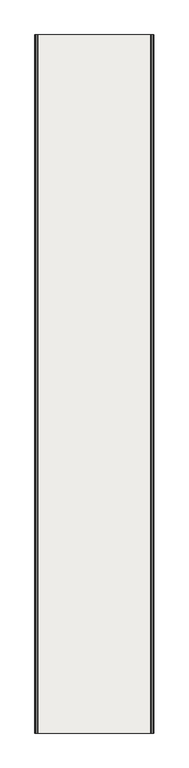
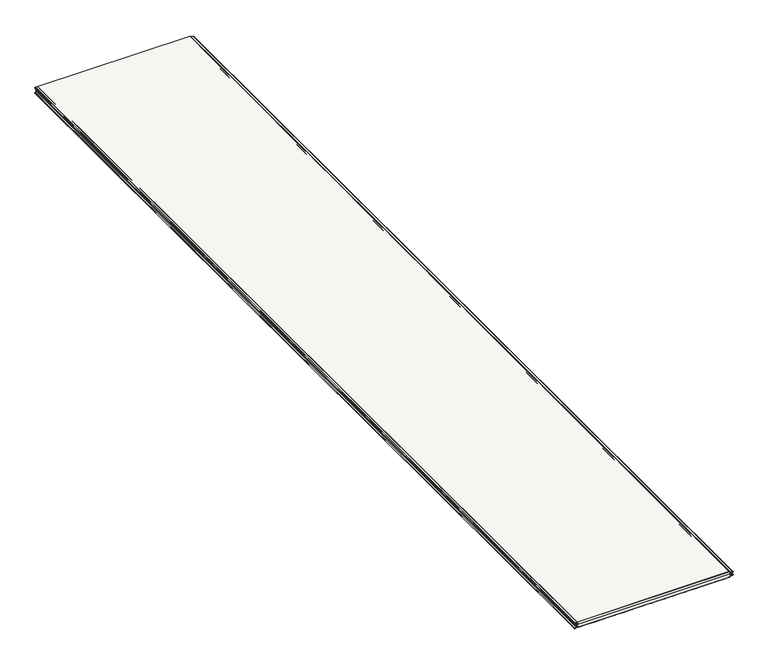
"""IFC4 building model written with IfcOpenShell, lengths in millimetres: covering geometry, Wall sandwich panel SPW-S CORE PIR (single sheet) : -."""

from ifc_helpers import new_model, si_unit, point, frame, frame_2d, origin, place, context, project, spatial, polyline, circle_curve, trimmed, segment, composite_curve, outline, extrude, source, transform, mapped, element, save
from ifc_brep_helpers import plane_surface, cylinder_surface, revolved_surface, advanced_brep


def covering_55037079(model_context):
    return source(origin(), model_context, "Body", "SolidModel", [
        extrude(outline(composite_curve([segment(trimmed(circle_curve(frame_2d((-37.0000044, -1037.1173525)), 1.9999956), [point((-39.0, -1037.1173525))], [point((-35.0012272, -1037.1871548))], True, "CARTESIAN"), True, "CONTINUOUS"), segment(polyline([(-35.0012272, -1037.1871548), (-34.4480424, -1021.3468073)]), True, "CONTINUOUS"), segment(trimmed(circle_curve(frame_2d((-29.950784, -1021.5038629)), 4.5), [point((-34.4480424, -1021.3468073))], [point((-25.4569506, -1021.2683589))], False, "CARTESIAN"), True, "CONTINUOUS"), segment(polyline([(-25.4569506, -1021.2683589), (-24.890434, -1032.0785016)]), True, "CONTINUOUS"), segment(trimmed(circle_curve(frame_2d((-23.3924895, -1032.0000003)), 1.5), [point((-24.890434, -1032.0785016))], [point((-23.3924895, -1033.5000003))], True, "CARTESIAN"), True, "CONTINUOUS"), segment(polyline([(-23.3924895, -1033.5000003), (-20.8924895, -1033.5000003), (-20.8924895, -1034.5000003), (-23.3924895, -1034.5000003)]), True, "CONTINUOUS"), segment(trimmed(circle_curve(frame_2d((-23.3924895, -1032.0000003)), 2.5), [point((-23.3924895, -1034.5000003))], [point((-25.8890636, -1032.1308358))], False, "CARTESIAN"), True, "CONTINUOUS"), segment(polyline([(-25.8890636, -1032.1308358), (-26.4555803, -1021.3206931)]), True, "CONTINUOUS"), segment(trimmed(circle_curve(frame_2d((-29.950784, -1021.5038629)), 3.5), [point((-26.4555803, -1021.3206931))], [point((-33.4486516, -1021.3817085))], True, "CARTESIAN"), True, "CONTINUOUS"), segment(polyline([(-33.4486516, -1021.3817085), (-34.0018364, -1037.222056)]), True, "CONTINUOUS"), segment(trimmed(circle_curve(frame_2d((-37.0000044, -1037.1173525)), 2.9999956), [point((-34.0018364, -1037.222056))], [point((-40.0, -1037.1173525))], False, "CARTESIAN"), True, "CONTINUOUS"), segment(polyline([(-40.0, -1037.1173525), (-40.0, -1035.0000003), (-39.0, -1035.0000003), (-39.0, -1037.1173525)]), True, "CONTINUOUS")], self_intersect=False)), frame((0.0, -6000.0, 0.0), z_axis=(0.0, 1.0, 0.0), x_axis=(0.0, 0.0, 1.0)), (0.0, 0.0, 1.0), 6000.0),
        extrude(outline(composite_curve([segment(polyline([(-1.0, -1037.1173525), (-1.0, -1035.0000003), (0.0, -1035.0000003), (0.0, -1037.1173525)]), True, "CONTINUOUS"), segment(trimmed(circle_curve(frame_2d((-2.9999956, -1037.1173525)), 2.9999956), [point((0.0, -1037.1173525))], [point((-5.9981636, -1037.222056))], False, "CARTESIAN"), True, "CONTINUOUS"), segment(polyline([(-5.9981636, -1037.222056), (-6.5513484, -1021.3817085)]), True, "CONTINUOUS"), segment(trimmed(circle_curve(frame_2d((-10.049216, -1021.5038629)), 3.5), [point((-6.5513484, -1021.3817085))], [point((-13.5444197, -1021.3206931))], True, "CARTESIAN"), True, "CONTINUOUS"), segment(polyline([(-13.5444197, -1021.3206931), (-14.1109364, -1032.1308358)]), True, "CONTINUOUS"), segment(trimmed(circle_curve(frame_2d((-16.6075105, -1032.0000003)), 2.5), [point((-14.1109364, -1032.1308358))], [point((-16.6075105, -1034.5000003))], False, "CARTESIAN"), True, "CONTINUOUS"), segment(polyline([(-16.6075105, -1034.5000003), (-19.1075105, -1034.5000003), (-19.1075105, -1033.5000003), (-16.6075105, -1033.5000003)]), True, "CONTINUOUS"), segment(trimmed(circle_curve(frame_2d((-16.6075105, -1032.0000003)), 1.5), [point((-16.6075105, -1033.5000003))], [point((-15.109566, -1032.0785016))], True, "CARTESIAN"), True, "CONTINUOUS"), segment(polyline([(-15.109566, -1032.0785016), (-14.5430494, -1021.2683589)]), True, "CONTINUOUS"), segment(trimmed(circle_curve(frame_2d((-10.049216, -1021.5038629)), 4.5), [point((-14.5430494, -1021.2683589))], [point((-5.5519576, -1021.3468073))], False, "CARTESIAN"), True, "CONTINUOUS"), segment(polyline([(-5.5519576, -1021.3468073), (-4.9987728, -1037.1871548)]), True, "CONTINUOUS"), segment(trimmed(circle_curve(frame_2d((-2.9999956, -1037.1173525)), 1.9999956), [point((-4.9987728, -1037.1871548))], [point((-1.0, -1037.1173525))], True, "CARTESIAN"), True, "CONTINUOUS")], self_intersect=False)), frame((0.0, -6000.0, 0.0), z_axis=(0.0, 1.0, 0.0), x_axis=(0.0, 0.0, 1.0)), (0.0, 0.0, 1.0), 6000.0),
        advanced_brep(
        [(-43.1186621, 0.0, -39.0), (-41.1186621, 0.0, -37.0), (-41.1186621, 0.0, -34.93), (-39.1884611, 0.0, -32.9312183), (-22.5992017, 0.0, -32.3519086), (-22.43132, 0.0, -27.5379716), (-33.6570079, 0.0, -26.9496582), (-36.5, 0.0, -23.9537696), (-36.5, 0.0, -21.4537696), (-35.5, 0.0, -21.4537696), (-35.5, 0.0, -23.9537696), (-33.6046719, 0.0, -25.9510287), (-22.6550677, 0.0, -26.5248731), (-22.6835162, 0.0, -33.3501612), (-39.1535616, 0.0, -33.9306092), (-40.1186621, 0.0, -34.93), (-40.1186621, 0.0, -37.0), (-43.1186621, 0.0, -40.0), (-90.0275239, 0.0, -40.0), (-91.4098003, 0.0, -39.6), (-135.6275239, 0.0, -39.6), (-137.0098003, 0.0, -40.0), (-181.2275239, 0.0, -40.0), (-182.6098003, 0.0, -39.6), (-226.8275239, 0.0, -39.6), (-228.2098003, 0.0, -40.0), (-272.4275239, 0.0, -40.0), (-273.8098003, 0.0, -39.6), (-318.0275239, 0.0, -39.6), (-319.4098003, 0.0, -40.0), (-363.6275239, 0.0, -40.0), (-365.0098003, 0.0, -39.6), (-409.2275239, 0.0, -39.6), (-410.6098003, 0.0, -40.0), (-454.8275239, 0.0, -40.0), (-456.2098003, 0.0, -39.6), (-500.4275239, 0.0, -39.6), (-501.8098003, 0.0, -40.0), (-546.0275239, 0.0, -40.0), (-547.4098003, 0.0, -39.6), (-591.6275239, 0.0, -39.6), (-593.0098003, 0.0, -40.0), (-637.2275239, 0.0, -40.0), (-638.6098003, 0.0, -39.6), (-682.8275239, 0.0, -39.6), (-684.2098003, 0.0, -40.0), (-728.4275239, 0.0, -40.0), (-729.8098003, 0.0, -39.6), (-774.0275239, 0.0, -39.6), (-775.4098003, 0.0, -40.0), (-819.6275239, 0.0, -40.0), (-821.0098003, 0.0, -39.6), (-865.2275239, 0.0, -39.6), (-866.6098003, 0.0, -40.0), (-910.8275239, 0.0, -40.0), (-912.2098003, 0.0, -39.6), (-956.4275239, 0.0, -39.6), (-957.8098003, 0.0, -40.0), (-1002.0275239, 0.0, -40.0), (-1003.4098003, 0.0, -39.6), (-1035.0000003, 0.0, -39.6), (-1035.0000003, 0.0, -39.0), (-1003.4098003, -6000.0, -39.6), (-1002.0275239, -6000.0, -40.0), (-957.8098003, -6000.0, -40.0), (-956.4275239, -6000.0, -39.6), (-912.2098003, -6000.0, -39.6), (-910.8275239, -6000.0, -40.0), (-866.6098003, -6000.0, -40.0), (-865.2275239, -6000.0, -39.6), (-821.0098003, -6000.0, -39.6), (-819.6275239, -6000.0, -40.0), (-775.4098003, -6000.0, -40.0), (-774.0275239, -6000.0, -39.6), (-729.8098003, -6000.0, -39.6), (-728.4275239, -6000.0, -40.0), (-684.2098003, -6000.0, -40.0), (-682.8275239, -6000.0, -39.6), (-638.6098003, -6000.0, -39.6), (-637.2275239, -6000.0, -40.0), (-593.0098003, -6000.0, -40.0), (-591.6275239, -6000.0, -39.6), (-547.4098003, -6000.0, -39.6), (-546.0275239, -6000.0, -40.0), (-501.8098003, -6000.0, -40.0), (-500.4275239, -6000.0, -39.6), (-456.2098003, -6000.0, -39.6), (-454.8275239, -6000.0, -40.0), (-410.6098003, -6000.0, -40.0), (-409.2275239, -6000.0, -39.6), (-365.0098003, -6000.0, -39.6), (-363.6275239, -6000.0, -40.0), (-319.4098003, -6000.0, -40.0), (-318.0275239, -6000.0, -39.6), (-273.8098003, -6000.0, -39.6), (-272.4275239, -6000.0, -40.0), (-228.2098003, -6000.0, -40.0), (-226.8275239, -6000.0, -39.6), (-182.6098003, -6000.0, -39.6), (-181.2275239, -6000.0, -40.0), (-137.0098003, -6000.0, -40.0), (-135.6275239, -6000.0, -39.6), (-91.4098003, -6000.0, -39.6), (-90.0275239, -6000.0, -40.0), (-43.1186621, -6000.0, -40.0), (-40.1186621, -6000.0, -37.0), (-40.1186621, -6000.0, -34.93), (-39.1535616, -6000.0, -33.9306092), (-22.7218558, -6000.0, -33.3568014), (-22.6550677, -6000.0, -26.5248731), (-33.6046719, -6000.0, -25.9510287), (-35.5, -6000.0, -23.9537696), (-35.5, -6000.0, -21.4537696), (-36.5, -6000.0, -21.4537696), (-36.5, -6000.0, -23.9537696), (-33.6570079, -6000.0, -26.9496582), (-22.43132, -6000.0, -27.5379716), (-22.5993141, -6000.0, -32.3486915), (-39.1884611, -6000.0, -32.9312183), (-41.1186621, -6000.0, -34.93), (-41.1186621, -6000.0, -37.0), (-43.1186621, -6000.0, -39.0), (-1035.0000003, -6000.0, -39.0), (-1035.0000003, -6000.0, -39.6)],
        [
            (0, 1, circle_curve(frame((-43.1186621, 0.0, -37.0), z_axis=(0.0, -1.0, 0.0), x_axis=(1.0, 0.0, 0.0)), 2.0)),
            (1, 2),
            (2, 3, circle_curve(frame((-39.1186621, 0.0, -34.93), z_axis=(0.0, 1.0, 0.0), x_axis=(1.0, 0.0, 0.0)), 2.0)),
            (3, 4),
            (4, 5, circle_curve(frame((-22.6835162, 0.0, -29.9374579), z_axis=(0.0, -1.0, 0.0), x_axis=(1.0, 0.0, 0.0)), 2.4127033)),
            (5, 6),
            (6, 7, circle_curve(frame((-33.5, 0.0, -23.9537696), z_axis=(0.0, 1.0, 0.0), x_axis=(1.0, 0.0, 0.0)), 3.0)),
            (7, 8),
            (8, 9),
            (9, 10),
            (10, 11, circle_curve(frame((-33.5, 0.0, -23.9537696), z_axis=(0.0, -1.0, 0.0), x_axis=(1.0, 0.0, 0.0)), 2.0)),
            (11, 12),
            (12, 13, circle_curve(frame((-22.6835162, 0.0, -29.9374579), z_axis=(0.0, 1.0, 0.0), x_axis=(1.0, 0.0, 0.0)), 3.4127033)),
            (13, 14),
            (14, 15, circle_curve(frame((-39.1186621, 0.0, -34.93), z_axis=(0.0, -1.0, 0.0), x_axis=(1.0, 0.0, 0.0)), 1.0)),
            (15, 16),
            (16, 17, circle_curve(frame((-43.1186621, 0.0, -37.0), z_axis=(0.0, 1.0, 0.0), x_axis=(1.0, 0.0, 0.0)), 3.0)),
            (17, 18),
            (18, 19),
            (19, 20),
            (20, 21),
            (21, 22),
            (22, 23),
            (23, 24),
            (24, 25),
            (25, 26),
            (26, 27),
            (27, 28),
            (28, 29),
            (29, 30),
            (30, 31),
            (31, 32),
            (32, 33),
            (33, 34),
            (34, 35),
            (35, 36),
            (36, 37),
            (37, 38),
            (38, 39),
            (39, 40),
            (40, 41),
            (41, 42),
            (42, 43),
            (43, 44),
            (44, 45),
            (45, 46),
            (46, 47),
            (47, 48),
            (48, 49),
            (49, 50),
            (50, 51),
            (51, 52),
            (52, 53),
            (53, 54),
            (54, 55),
            (55, 56),
            (56, 57),
            (57, 58),
            (58, 59),
            (59, 60),
            (60, 61),
            (61, 0),
            (62, 63),
            (63, 64),
            (64, 65),
            (65, 66),
            (66, 67),
            (67, 68),
            (68, 69),
            (69, 70),
            (70, 71),
            (71, 72),
            (72, 73),
            (73, 74),
            (74, 75),
            (75, 76),
            (76, 77),
            (77, 78),
            (78, 79),
            (79, 80),
            (80, 81),
            (81, 82),
            (82, 83),
            (83, 84),
            (84, 85),
            (85, 86),
            (86, 87),
            (87, 88),
            (88, 89),
            (89, 90),
            (90, 91),
            (91, 92),
            (92, 93),
            (93, 94),
            (94, 95),
            (95, 96),
            (96, 97),
            (97, 98),
            (98, 99),
            (99, 100),
            (100, 101),
            (101, 102),
            (102, 103),
            (103, 104),
            (104, 105, circle_curve(frame((-43.1186621, -6000.0, -37.0), z_axis=(0.0, -1.0, 0.0), x_axis=(1.0, 0.0, 0.0)), 3.0)),
            (105, 106),
            (106, 107, circle_curve(frame((-39.1186621, -6000.0, -34.93), z_axis=(0.0, 1.0, 0.0), x_axis=(1.0, 0.0, 0.0)), 1.0)),
            (107, 108),
            (108, 109, circle_curve(frame((-22.6835162, -6000.0, -29.9374579), z_axis=(0.0, -1.0, 0.0), x_axis=(1.0, 0.0, 0.0)), 3.4127033)),
            (109, 110),
            (110, 111, circle_curve(frame((-33.5, -6000.0, -23.9537696), z_axis=(0.0, 1.0, 0.0), x_axis=(1.0, 0.0, 0.0)), 2.0)),
            (111, 112),
            (112, 113),
            (113, 114),
            (114, 115, circle_curve(frame((-33.5, -6000.0, -23.9537696), z_axis=(0.0, -1.0, 0.0), x_axis=(1.0, 0.0, 0.0)), 3.0)),
            (115, 116),
            (116, 117, circle_curve(frame((-22.6835162, -6000.0, -29.9374579), z_axis=(0.0, 1.0, 0.0), x_axis=(1.0, 0.0, 0.0)), 2.4127033)),
            (117, 118),
            (118, 119, circle_curve(frame((-39.1186621, -6000.0, -34.93), z_axis=(0.0, -1.0, 0.0), x_axis=(1.0, 0.0, 0.0)), 2.0)),
            (119, 120),
            (120, 121, circle_curve(frame((-43.1186621, -6000.0, -37.0), z_axis=(0.0, 1.0, 0.0), x_axis=(1.0, 0.0, 0.0)), 2.0)),
            (121, 122),
            (122, 123),
            (123, 62),
            (121, 0),
            (61, 122),
            (2, 119),
            (118, 3),
            (1, 120),
            (117, 4),
            (5, 116),
            (115, 6),
            (114, 7),
            (113, 8),
            (112, 9),
            (16, 105),
            (104, 17),
            (15, 106),
            (14, 107),
            (13, 108),
            (11, 110),
            (109, 12),
            (10, 111),
            (103, 18),
            (102, 19),
            (101, 20),
            (100, 21),
            (99, 22),
            (98, 23),
            (97, 24),
            (96, 25),
            (95, 26),
            (94, 27),
            (93, 28),
            (92, 29),
            (91, 30),
            (90, 31),
            (89, 32),
            (88, 33),
            (87, 34),
            (86, 35),
            (85, 36),
            (84, 37),
            (83, 38),
            (82, 39),
            (81, 40),
            (80, 41),
            (79, 42),
            (78, 43),
            (77, 44),
            (76, 45),
            (75, 46),
            (74, 47),
            (73, 48),
            (55, 66),
            (65, 56),
            (64, 57),
            (63, 58),
            (62, 59),
            (123, 60),
            (72, 49),
            (71, 50),
            (70, 51),
            (69, 52),
            (68, 53),
            (67, 54),
        ],
        [
            plane_surface(frame((-35.0, 0.0, -40.0), z_axis=(0.0, 1.0, 0.0), x_axis=(1.0, 0.0, 0.0))),
            plane_surface(frame((-35.0, -6000.0, -40.0), z_axis=(0.0, -1.0, 0.0), x_axis=(1.0, 0.0, 0.0))),
            plane_surface(frame((-1185.0, 0.0, -39.0), z_axis=(0.0, 0.0, 1.0), x_axis=(0.0, -1.0, 0.0))),
            cylinder_surface(frame((-39.1186621, 0.0, -34.93), z_axis=(0.0, 1.0, 0.0), x_axis=(1.0, 0.0, 0.0)), 2.0),
            plane_surface(frame((-41.1186621, 0.0, -37.0), z_axis=(-1.0, 0.0, 0.0), x_axis=(0.0, -1.0, 0.0))),
            revolved_surface(polyline([(-41.1186621, -6000.0, -37.0), (-41.1186621, 0.0, -37.0)]), (-43.1186621, 0.0, -37.0), (0.0, -1.0, 0.0)),
            plane_surface(frame((-39.1884611, 0.0, -32.9312183), z_axis=(-0.03489949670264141, 0.0, 0.9993908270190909), x_axis=(0.0, -1.0, 0.0))),
            plane_surface(frame((-22.43132, 0.0, -27.5379716), z_axis=(-0.052335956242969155, 0.0, -0.9986295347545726), x_axis=(0.0, -1.0, 0.0))),
            cylinder_surface(frame((-33.5, 0.0, -23.9537696), z_axis=(0.0, 1.0, 0.0), x_axis=(1.0, 0.0, 0.0)), 3.0),
            plane_surface(frame((-36.5, 0.0, -23.9537696), z_axis=(-1.0, 0.0, 0.0), x_axis=(0.0, -1.0, 0.0))),
            plane_surface(frame((-36.5, 0.0, -21.4537696), z_axis=(0.0, 0.0, 1.0), x_axis=(0.0, -1.0, 0.0))),
            cylinder_surface(frame((-43.1186621, 0.0, -37.0), z_axis=(0.0, 1.0, 0.0), x_axis=(1.0, 0.0, 0.0)), 3.0),
            plane_surface(frame((-40.1186621, 0.0, -34.93), z_axis=(1.0, 0.0, 0.0), x_axis=(0.0, -1.0, 0.0))),
            revolved_surface(polyline([(-38.1186621, -6000.0, -34.93), (-38.1186621, 0.0, -34.93)]), (-39.1186621, 0.0, -34.93), (0.0, -1.0, 0.0)),
            plane_surface(frame((-22.7218558, 0.0, -33.3568014), z_axis=(0.0348994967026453, 0.0, -0.9993908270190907), x_axis=(0.0, -1.0, 0.0))),
            plane_surface(frame((-33.6046719, 0.0, -25.9510287), z_axis=(0.05233595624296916, 0.0, 0.9986295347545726), x_axis=(0.0, -1.0, 0.0))),
            revolved_surface(polyline([(-31.5, -6000.0, -23.9537696), (-31.5, 0.0, -23.9537696)]), (-33.5, 0.0, -23.9537696), (0.0, -1.0, 0.0)),
            cylinder_surface(frame((-22.6835162, 0.0, -29.9374579), z_axis=(0.0, 1.0, 0.0), x_axis=(1.0, 0.0, 0.0)), 3.4127033),
            revolved_surface(polyline([(-20.2708129, -6000.0, -29.9374579), (-20.2708129, 0.0, -29.9374579)]), (-22.6835162, 0.0, -29.9374579), (0.0, -1.0, 0.0)),
            plane_surface(frame((-35.5, 0.0, -21.4537696), z_axis=(1.0, 0.0, 0.0), x_axis=(0.0, -1.0, 0.0))),
            plane_surface(frame((-43.1186621, 0.0, -40.0), z_axis=(0.0, 0.0, -1.0), x_axis=(0.0, -1.0, 0.0))),
            plane_surface(frame((-90.0275239, 0.0, -40.0), z_axis=(-0.27797301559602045, 0.0, -0.9605888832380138), x_axis=(0.0, -1.0, 0.0))),
            plane_surface(frame((-91.4098003, 0.0, -39.6), z_axis=(0.0, 0.0, -1.0), x_axis=(0.0, -1.0, 0.0))),
            plane_surface(frame((-135.6275239, 0.0, -39.6), z_axis=(0.27797301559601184, 0.0, -0.9605888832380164), x_axis=(0.0, -1.0, 0.0))),
            plane_surface(frame((-137.0098003, 0.0, -40.0), z_axis=(0.0, 0.0, -1.0), x_axis=(0.0, -1.0, 0.0))),
            plane_surface(frame((-181.2275239, 0.0, -40.0), z_axis=(-0.27797301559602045, 0.0, -0.9605888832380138), x_axis=(0.0, -1.0, 0.0))),
            plane_surface(frame((-182.6098003, 0.0, -39.6), z_axis=(0.0, 0.0, -1.0), x_axis=(0.0, -1.0, 0.0))),
            plane_surface(frame((-226.8275239, 0.0, -39.6), z_axis=(0.27797301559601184, 0.0, -0.9605888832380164), x_axis=(0.0, -1.0, 0.0))),
            plane_surface(frame((-228.2098003, 0.0, -40.0), z_axis=(0.0, 0.0, -1.0), x_axis=(0.0, -1.0, 0.0))),
            plane_surface(frame((-272.4275239, 0.0, -40.0), z_axis=(-0.27797301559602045, 0.0, -0.9605888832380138), x_axis=(0.0, -1.0, 0.0))),
            plane_surface(frame((-273.8098003, 0.0, -39.6), z_axis=(0.0, 0.0, -1.0), x_axis=(0.0, -1.0, 0.0))),
            plane_surface(frame((-318.0275239, 0.0, -39.6), z_axis=(0.27797301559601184, 0.0, -0.9605888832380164), x_axis=(0.0, -1.0, 0.0))),
            plane_surface(frame((-319.4098003, 0.0, -40.0), z_axis=(0.0, 0.0, -1.0), x_axis=(0.0, -1.0, 0.0))),
            plane_surface(frame((-363.6275239, 0.0, -40.0), z_axis=(-0.27797301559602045, 0.0, -0.9605888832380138), x_axis=(0.0, -1.0, 0.0))),
            plane_surface(frame((-365.0098003, 0.0, -39.6), z_axis=(0.0, 0.0, -1.0), x_axis=(0.0, -1.0, 0.0))),
            plane_surface(frame((-409.2275239, 0.0, -39.6), z_axis=(0.27797301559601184, 0.0, -0.9605888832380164), x_axis=(0.0, -1.0, 0.0))),
            plane_surface(frame((-410.6098003, 0.0, -40.0), z_axis=(0.0, 0.0, -1.0), x_axis=(0.0, -1.0, 0.0))),
            plane_surface(frame((-454.8275239, 0.0, -40.0), z_axis=(-0.27797301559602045, 0.0, -0.9605888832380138), x_axis=(0.0, -1.0, 0.0))),
            plane_surface(frame((-456.2098003, 0.0, -39.6), z_axis=(0.0, 0.0, -1.0), x_axis=(0.0, -1.0, 0.0))),
            plane_surface(frame((-500.4275239, 0.0, -39.6), z_axis=(0.27797301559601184, 0.0, -0.9605888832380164), x_axis=(0.0, -1.0, 0.0))),
            plane_surface(frame((-501.8098003, 0.0, -40.0), z_axis=(0.0, 0.0, -1.0), x_axis=(0.0, -1.0, 0.0))),
            plane_surface(frame((-546.0275239, 0.0, -40.0), z_axis=(-0.27797301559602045, 0.0, -0.9605888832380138), x_axis=(0.0, -1.0, 0.0))),
            plane_surface(frame((-547.4098003, 0.0, -39.6), z_axis=(0.0, 0.0, -1.0), x_axis=(0.0, -1.0, 0.0))),
            plane_surface(frame((-591.6275239, 0.0, -39.6), z_axis=(0.27797301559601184, 0.0, -0.9605888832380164), x_axis=(0.0, -1.0, 0.0))),
            plane_surface(frame((-593.0098003, 0.0, -40.0), z_axis=(0.0, 0.0, -1.0), x_axis=(0.0, -1.0, 0.0))),
            plane_surface(frame((-637.2275239, 0.0, -40.0), z_axis=(-0.27797301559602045, 0.0, -0.9605888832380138), x_axis=(0.0, -1.0, 0.0))),
            plane_surface(frame((-638.6098003, 0.0, -39.6), z_axis=(0.0, 0.0, -1.0), x_axis=(0.0, -1.0, 0.0))),
            plane_surface(frame((-682.8275239, 0.0, -39.6), z_axis=(0.27797301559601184, 0.0, -0.9605888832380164), x_axis=(0.0, -1.0, 0.0))),
            plane_surface(frame((-684.2098003, 0.0, -40.0), z_axis=(0.0, 0.0, -1.0), x_axis=(0.0, -1.0, 0.0))),
            plane_surface(frame((-728.4275239, 0.0, -40.0), z_axis=(-0.27797301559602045, 0.0, -0.9605888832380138), x_axis=(0.0, -1.0, 0.0))),
            plane_surface(frame((-729.8098003, 0.0, -39.6), z_axis=(0.0, 0.0, -1.0), x_axis=(0.0, -1.0, 0.0))),
            plane_surface(frame((-912.2098003, 0.0, -39.6), z_axis=(0.0, 0.0, -1.0), x_axis=(0.0, -1.0, 0.0))),
            plane_surface(frame((-956.4275239, 0.0, -39.6), z_axis=(0.27797301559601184, 0.0, -0.9605888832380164), x_axis=(0.0, -1.0, 0.0))),
            plane_surface(frame((-957.8098003, 0.0, -40.0), z_axis=(0.0, 0.0, -1.0), x_axis=(0.0, -1.0, 0.0))),
            plane_surface(frame((-1002.0275239, 0.0, -40.0), z_axis=(-0.27797301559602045, 0.0, -0.9605888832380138), x_axis=(0.0, -1.0, 0.0))),
            plane_surface(frame((-1003.4098003, 0.0, -39.6), z_axis=(0.0, 0.0, -1.0), x_axis=(0.0, -1.0, 0.0))),
            plane_surface(frame((-1035.0000003, -6000.0, -41.875), z_axis=(-1.0, 0.0, 0.0), x_axis=(0.0, 1.0, 0.0))),
            plane_surface(frame((-774.0275239, 0.0, -39.6), z_axis=(0.27797301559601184, 0.0, -0.9605888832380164), x_axis=(0.0, -1.0, 0.0))),
            plane_surface(frame((-775.4098003, 0.0, -40.0), z_axis=(0.0, 0.0, -1.0), x_axis=(0.0, -1.0, 0.0))),
            plane_surface(frame((-819.6275239, 0.0, -40.0), z_axis=(-0.27797301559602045, 0.0, -0.9605888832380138), x_axis=(0.0, -1.0, 0.0))),
            plane_surface(frame((-821.0098003, 0.0, -39.6), z_axis=(0.0, 0.0, -1.0), x_axis=(0.0, -1.0, 0.0))),
            plane_surface(frame((-865.2275239, 0.0, -39.6), z_axis=(0.27797301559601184, 0.0, -0.9605888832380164), x_axis=(0.0, -1.0, 0.0))),
            plane_surface(frame((-866.6098003, 0.0, -40.0), z_axis=(0.0, 0.0, -1.0), x_axis=(0.0, -1.0, 0.0))),
            plane_surface(frame((-910.8275239, 0.0, -40.0), z_axis=(-0.27797301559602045, 0.0, -0.9605888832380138), x_axis=(0.0, -1.0, 0.0))),
        ],
        [
            (0, [[1, 2, 3, 4, 5, 6, 7, 8, 9, 10, 11, 12, 13, 14, 15, 16, 17, 18, 19, 20, 21, 22, 23, 24, 25, 26, 27, 28, 29, 30, 31, 32, 33, 34, 35, 36, 37, 38, 39, 40, 41, 42, 43, 44, 45, 46, 47, 48, 49, 50, 51, 52, 53, 54, 55, 56, 57, 58, 59, 60, 61, 62]]),
            (1, [[63, 64, 65, 66, 67, 68, 69, 70, 71, 72, 73, 74, 75, 76, 77, 78, 79, 80, 81, 82, 83, 84, 85, 86, 87, 88, 89, 90, 91, 92, 93, 94, 95, 96, 97, 98, 99, 100, 101, 102, 103, 104, 105, 106, 107, 108, 109, 110, 111, 112, 113, 114, 115, 116, 117, 118, 119, 120, 121, 122, 123, 124]]),
            (2, [[125, -62, 126, -122]]),
            (3, [[-3, 127, -119, 128]]),
            (4, [[-2, 129, -120, -127]]),
            (5, [[-1, -125, -121, -129]]),
            (6, [[-4, -128, -118, 130]]),
            (7, [[-6, 131, -116, 132]]),
            (8, [[-7, -132, -115, 133]]),
            (9, [[-8, -133, -114, 134]]),
            (10, [[-9, -134, -113, 135]]),
            (11, [[-17, 136, -105, 137]]),
            (12, [[-16, 138, -106, -136]]),
            (13, [[-15, 139, -107, -138]]),
            (14, [[-14, 140, -108, -139]]),
            (15, [[-12, 141, -110, 142]]),
            (16, [[-11, 143, -111, -141]]),
            (17, [[-13, -142, -109, -140]]),
            (18, [[-5, -130, -117, -131]]),
            (19, [[-10, -135, -112, -143]]),
            (20, [[-18, -137, -104, 144]]),
            (21, [[-19, -144, -103, 145]]),
            (22, [[-20, -145, -102, 146]]),
            (23, [[-21, -146, -101, 147]]),
            (24, [[-22, -147, -100, 148]]),
            (25, [[-23, -148, -99, 149]]),
            (26, [[-24, -149, -98, 150]]),
            (27, [[-25, -150, -97, 151]]),
            (28, [[-26, -151, -96, 152]]),
            (29, [[-27, -152, -95, 153]]),
            (30, [[-28, -153, -94, 154]]),
            (31, [[-29, -154, -93, 155]]),
            (32, [[-30, -155, -92, 156]]),
            (33, [[-31, -156, -91, 157]]),
            (34, [[-32, -157, -90, 158]]),
            (35, [[-33, -158, -89, 159]]),
            (36, [[-34, -159, -88, 160]]),
            (37, [[-35, -160, -87, 161]]),
            (38, [[-36, -161, -86, 162]]),
            (39, [[-37, -162, -85, 163]]),
            (40, [[-38, -163, -84, 164]]),
            (41, [[-39, -164, -83, 165]]),
            (42, [[-40, -165, -82, 166]]),
            (43, [[-41, -166, -81, 167]]),
            (44, [[-42, -167, -80, 168]]),
            (45, [[-43, -168, -79, 169]]),
            (46, [[-44, -169, -78, 170]]),
            (47, [[-45, -170, -77, 171]]),
            (48, [[-46, -171, -76, 172]]),
            (49, [[-47, -172, -75, 173]]),
            (50, [[-48, -173, -74, 174]]),
            (51, [[-56, 175, -66, 176]]),
            (52, [[-57, -176, -65, 177]]),
            (53, [[-58, -177, -64, 178]]),
            (54, [[-59, -178, -63, 179]]),
            (55, [[-179, -124, 180, -60]]),
            (56, [[-61, -180, -123, -126]]),
            (57, [[-49, -174, -73, 181]]),
            (58, [[-50, -181, -72, 182]]),
            (59, [[-51, -182, -71, 183]]),
            (60, [[-52, -183, -70, 184]]),
            (61, [[-53, -184, -69, 185]]),
            (62, [[-54, -185, -68, 186]]),
            (63, [[-55, -186, -67, -175]]),
        ],
    ),
        advanced_brep(
        [(-1035.0, 0.0, -1.0), (-1035.0, 0.0, 0.0), (-43.1186621, 0.0, 0.0), (-40.1186621, 0.0, -3.0), (-40.1186621, 0.0, -5.07), (-39.1535616, 0.0, -6.0693908), (-22.7218558, 0.0, -6.6431986), (-22.6835162, 0.0, -13.4752455), (-33.6046719, 0.0, -14.0489713), (-35.5, 0.0, -16.0462304), (-35.5, 0.0, -18.5462304), (-36.5, 0.0, -18.5462304), (-36.5, 0.0, -16.0462304), (-33.6570079, 0.0, -13.0503418), (-22.43132, 0.0, -12.4620284), (-22.5993141, 0.0, -7.6513085), (-39.1884611, 0.0, -7.0687817), (-41.1186621, 0.0, -5.07), (-41.1186621, 0.0, -3.0), (-43.1186621, 0.0, -1.0), (-1035.0, -6000.0, -1.0), (-43.1186621, -6000.0, -1.0), (-41.1186621, -6000.0, -3.0), (-41.1186621, -6000.0, -5.07), (-39.1884611, -6000.0, -7.0687817), (-22.5992017, -6000.0, -7.6480914), (-22.43132, -6000.0, -12.4620284), (-33.6570079, -6000.0, -13.0503418), (-36.5, -6000.0, -16.0462304), (-36.5, -6000.0, -18.5462304), (-35.5, -6000.0, -18.5462304), (-35.5, -6000.0, -16.0462304), (-33.6046719, -6000.0, -14.0489713), (-22.6071775, -6000.0, -13.4726171), (-22.6835162, -6000.0, -6.6498388), (-39.1535616, -6000.0, -6.0693908), (-40.1186621, -6000.0, -5.07), (-40.1186621, -6000.0, -3.0), (-43.1186621, -6000.0, 0.0), (-1035.0, -6000.0, 0.0)],
        [
            (0, 1),
            (1, 2),
            (2, 3, circle_curve(frame((-43.1186621, 0.0, -3.0), z_axis=(0.0, 1.0, 0.0), x_axis=(1.0, 0.0, 0.0)), 3.0)),
            (3, 4),
            (4, 5, circle_curve(frame((-39.1186621, 0.0, -5.07), z_axis=(0.0, -1.0, 0.0), x_axis=(1.0, 0.0, 0.0)), 1.0)),
            (5, 6),
            (6, 7, circle_curve(frame((-22.6835162, 0.0, -10.0625421), z_axis=(0.0, 1.0, 0.0), x_axis=(1.0, 0.0, 0.0)), 3.4127033)),
            (7, 8),
            (8, 9, circle_curve(frame((-33.5, 0.0, -16.0462304), z_axis=(0.0, -1.0, 0.0), x_axis=(1.0, 0.0, 0.0)), 2.0)),
            (9, 10),
            (10, 11),
            (11, 12),
            (12, 13, circle_curve(frame((-33.5, 0.0, -16.0462304), z_axis=(0.0, 1.0, 0.0), x_axis=(1.0, 0.0, 0.0)), 3.0)),
            (13, 14),
            (14, 15, circle_curve(frame((-22.6835162, 0.0, -10.0625421), z_axis=(0.0, -1.0, 0.0), x_axis=(1.0, 0.0, 0.0)), 2.4127033)),
            (15, 16),
            (16, 17, circle_curve(frame((-39.1186621, 0.0, -5.07), z_axis=(0.0, 1.0, 0.0), x_axis=(1.0, 0.0, 0.0)), 2.0)),
            (17, 18),
            (18, 19, circle_curve(frame((-43.1186621, 0.0, -3.0), z_axis=(0.0, -1.0, 0.0), x_axis=(1.0, 0.0, 0.0)), 2.0)),
            (19, 0),
            (20, 21),
            (21, 22, circle_curve(frame((-43.1186621, -6000.0, -3.0), z_axis=(0.0, 1.0, 0.0), x_axis=(1.0, 0.0, 0.0)), 2.0)),
            (22, 23),
            (23, 24, circle_curve(frame((-39.1186621, -6000.0, -5.07), z_axis=(0.0, -1.0, 0.0), x_axis=(1.0, 0.0, 0.0)), 2.0)),
            (24, 25),
            (25, 26, circle_curve(frame((-22.6835162, -6000.0, -10.0625421), z_axis=(0.0, 1.0, 0.0), x_axis=(1.0, 0.0, 0.0)), 2.4127033)),
            (26, 27),
            (27, 28, circle_curve(frame((-33.5, -6000.0, -16.0462304), z_axis=(0.0, -1.0, 0.0), x_axis=(1.0, 0.0, 0.0)), 3.0)),
            (28, 29),
            (29, 30),
            (30, 31),
            (31, 32, circle_curve(frame((-33.5, -6000.0, -16.0462304), z_axis=(0.0, 1.0, 0.0), x_axis=(1.0, 0.0, 0.0)), 2.0)),
            (32, 33),
            (33, 34, circle_curve(frame((-22.6835162, -6000.0, -10.0625421), z_axis=(0.0, -1.0, 0.0), x_axis=(1.0, 0.0, 0.0)), 3.4127033)),
            (34, 35),
            (35, 36, circle_curve(frame((-39.1186621, -6000.0, -5.07), z_axis=(0.0, 1.0, 0.0), x_axis=(1.0, 0.0, 0.0)), 1.0)),
            (36, 37),
            (37, 38, circle_curve(frame((-43.1186621, -6000.0, -3.0), z_axis=(0.0, -1.0, 0.0), x_axis=(1.0, 0.0, 0.0)), 3.0)),
            (38, 39),
            (39, 20),
            (19, 21),
            (20, 0),
            (1, 39),
            (38, 2),
            (16, 24),
            (23, 17),
            (22, 18),
            (15, 25),
            (13, 27),
            (26, 14),
            (10, 30),
            (29, 11),
            (12, 28),
            (4, 36),
            (35, 5),
            (9, 31),
            (8, 32),
            (7, 33),
            (6, 34),
            (37, 3),
        ],
        [
            plane_surface(frame((-35.0, 0.0, -1.0), z_axis=(0.0, 1.0, 0.0), x_axis=(1.0, 0.0, 0.0))),
            plane_surface(frame((-35.0, -6000.0, -1.0), z_axis=(0.0, -1.0, 0.0), x_axis=(1.0, 0.0, 0.0))),
            plane_surface(frame((-43.1186621, 0.0, -1.0), z_axis=(0.0, 0.0, -1.0), x_axis=(0.0, -1.0, 0.0))),
            plane_surface(frame((-1035.0, 0.0, 0.0), z_axis=(0.0, 0.0, 1.0), x_axis=(0.0, -1.0, 0.0))),
            cylinder_surface(frame((-39.1186621, 0.0, -5.07), z_axis=(0.0, 1.0, 0.0), x_axis=(1.0, 0.0, 0.0)), 2.0),
            plane_surface(frame((-41.1186621, 0.0, -5.07), z_axis=(-1.0, 0.0, 0.0), x_axis=(0.0, -1.0, 0.0))),
            revolved_surface(polyline([(-41.1186621, -6000.0, -3.0), (-41.1186621, 0.0, -3.0)]), (-43.1186621, 0.0, -3.0), (0.0, -1.0, 0.0)),
            plane_surface(frame((-22.5992017, 0.0, -7.6480914), z_axis=(-0.034899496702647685, 0.0, -0.9993908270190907), x_axis=(0.0, -1.0, 0.0))),
            plane_surface(frame((-33.6570079, 0.0, -13.0503418), z_axis=(-0.05233595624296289, 0.0, 0.998629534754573), x_axis=(0.0, -1.0, 0.0))),
            plane_surface(frame((-35.5, 0.0, -18.5462304), z_axis=(0.0, 0.0, -1.0), x_axis=(0.0, -1.0, 0.0))),
            cylinder_surface(frame((-33.5, 0.0, -16.0462304), z_axis=(0.0, 1.0, 0.0), x_axis=(1.0, 0.0, 0.0)), 3.0),
            plane_surface(frame((-36.5, 0.0, -18.5462304), z_axis=(-1.0, 0.0, 0.0), x_axis=(0.0, -1.0, 0.0))),
            revolved_surface(polyline([(-38.1186621, -6000.0, -5.07), (-38.1186621, 0.0, -5.07)]), (-39.1186621, 0.0, -5.07), (0.0, -1.0, 0.0)),
            plane_surface(frame((-35.5, 0.0, -16.0462304), z_axis=(1.0, 0.0, 0.0), x_axis=(0.0, -1.0, 0.0))),
            revolved_surface(polyline([(-31.5, -6000.0, -16.0462304), (-31.5, 0.0, -16.0462304)]), (-33.5, 0.0, -16.0462304), (0.0, -1.0, 0.0)),
            plane_surface(frame((-22.6071775, 0.0, -13.4726171), z_axis=(0.052335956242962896, 0.0, -0.998629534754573), x_axis=(0.0, -1.0, 0.0))),
            revolved_surface(polyline([(-20.2708129, -6000.0, -10.0625421), (-20.2708129, 0.0, -10.0625421)]), (-22.6835162, 0.0, -10.0625421), (0.0, -1.0, 0.0)),
            cylinder_surface(frame((-22.6835162, 0.0, -10.0625421), z_axis=(0.0, 1.0, 0.0), x_axis=(1.0, 0.0, 0.0)), 3.4127033),
            plane_surface(frame((-1035.0, 0.0, -1.0), z_axis=(-1.0, 0.0, 0.0), x_axis=(0.0, -1.0, 0.0))),
            cylinder_surface(frame((-43.1186621, 0.0, -3.0), z_axis=(0.0, 1.0, 0.0), x_axis=(1.0, 0.0, 0.0)), 3.0),
            plane_surface(frame((-40.1186621, 0.0, -3.0), z_axis=(1.0, 0.0, 0.0), x_axis=(0.0, -1.0, 0.0))),
            plane_surface(frame((-39.1535616, 0.0, -6.0693908), z_axis=(0.03489949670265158, 0.0, 0.9993908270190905), x_axis=(0.0, -1.0, 0.0))),
        ],
        [
            (0, [[1, 2, 3, 4, 5, 6, 7, 8, 9, 10, 11, 12, 13, 14, 15, 16, 17, 18, 19, 20]]),
            (1, [[21, 22, 23, 24, 25, 26, 27, 28, 29, 30, 31, 32, 33, 34, 35, 36, 37, 38, 39, 40]]),
            (2, [[-20, 41, -21, 42]]),
            (3, [[-2, 43, -39, 44]]),
            (4, [[-17, 45, -24, 46]]),
            (5, [[-18, -46, -23, 47]]),
            (6, [[-19, -47, -22, -41]]),
            (7, [[-16, 48, -25, -45]]),
            (8, [[-14, 49, -27, 50]]),
            (9, [[-11, 51, -30, 52]]),
            (10, [[-13, 53, -28, -49]]),
            (11, [[-12, -52, -29, -53]]),
            (12, [[-5, 54, -36, 55]]),
            (13, [[-10, 56, -31, -51]]),
            (14, [[-9, 57, -32, -56]]),
            (15, [[-8, 58, -33, -57]]),
            (16, [[-15, -50, -26, -48]]),
            (17, [[-7, 59, -34, -58]]),
            (18, [[-1, -42, -40, -43]]),
            (19, [[-3, -44, -38, 60]]),
            (20, [[-4, -60, -37, -54]]),
            (21, [[-6, -55, -35, -59]]),
        ],
    ),
        advanced_brep(
        [(-1037.1871548, -6000.0, -35.0012272), (-1037.1871548, 0.0, -35.0012272), (-1037.1173525, 0.0, -39.0), (-1037.1173525, -6000.0, -39.0), (-1021.3468073, -6000.0, -34.4480424), (-1021.3468073, 0.0, -34.4480424), (-1021.2683589, -6000.0, -25.4569506), (-1021.2683589, 0.0, -25.4569506), (-1032.0785016, -6000.0, -24.890434), (-1032.0785016, 0.0, -24.890434), (-1033.5000003, -6000.0, -23.3924895), (-1033.5000003, 0.0, -23.3924895), (-1033.5000003, -6000.0, -20.0), (-1033.5000003, 0.0, -20.0), (-1035.0000003, -6000.0, -39.0), (-44.6192414, -6000.0, -39.0), (-43.1186621, -6000.0, -39.0), (-41.1186621, -6000.0, -37.0), (-41.1186621, -6000.0, -34.93), (-39.1884611, -6000.0, -32.9312183), (-22.5992017, -6000.0, -32.3519086), (-22.1786572, -6000.0, -27.5781667), (-33.6570078, -6000.0, -26.9496582), (-36.5, -6000.0, -23.9537696), (-36.5, -6000.0, -20.0), (-1035.0000003, 0.0, -39.0), (-36.5, 0.0, -20.0), (-36.5, 0.0, -23.9537696), (-33.6570078, 0.0, -26.9496582), (-22.1786572, 0.0, -27.5781667), (-22.5993141, 0.0, -32.3486915), (-39.1884611, 0.0, -32.9312183), (-41.1186621, 0.0, -34.93), (-41.1186621, 0.0, -37.0), (-43.1186621, 0.0, -39.0), (-44.6192414, 0.0, -39.0)],
        [
            (0, 1),
            (1, 2, circle_curve(frame((-1037.1173525, 0.0, -37.0000044), z_axis=(0.0, -1.0, 0.0), x_axis=(-1.0, 0.0, 0.0)), 1.9999956)),
            (2, 3),
            (3, 0, circle_curve(frame((-1037.1173525, -6000.0, -37.0000044), z_axis=(0.0, 1.0, 0.0), x_axis=(-1.0, 0.0, 0.0)), 1.9999956)),
            (0, 4),
            (4, 5),
            (5, 1),
            (4, 6, circle_curve(frame((-1021.5038629, -6000.0, -29.950784), z_axis=(0.0, -1.0, 0.0), x_axis=(-1.0, 0.0, 0.0)), 4.5)),
            (6, 7),
            (7, 5, circle_curve(frame((-1021.5038629, 0.0, -29.950784), z_axis=(0.0, 1.0, 0.0), x_axis=(-1.0, 0.0, 0.0)), 4.5)),
            (6, 8),
            (8, 9),
            (9, 7),
            (8, 10, circle_curve(frame((-1032.0000003, -6000.0, -23.3924895), z_axis=(0.0, 1.0, 0.0), x_axis=(-1.0, 0.0, 0.0)), 1.5)),
            (10, 11),
            (11, 9, circle_curve(frame((-1032.0000003, 0.0, -23.3924895), z_axis=(0.0, -1.0, 0.0), x_axis=(-1.0, 0.0, 0.0)), 1.5)),
            (10, 12),
            (12, 13),
            (13, 11),
            (3, 14),
            (14, 15),
            (15, 16),
            (16, 17, circle_curve(frame((-43.1186621, -6000.0, -37.0), z_axis=(0.0, -1.0, 0.0), x_axis=(-1.0, 0.0, 0.0)), 2.0)),
            (17, 18),
            (18, 19, circle_curve(frame((-39.1186621, -6000.0, -34.93), z_axis=(0.0, 1.0, 0.0), x_axis=(-1.0, 0.0, 0.0)), 2.0)),
            (19, 20),
            (20, 21, circle_curve(frame((-22.6835162, -6000.0, -29.9374579), z_axis=(0.0, -1.0, 0.0), x_axis=(-1.0, 0.0, 0.0)), 2.4127033)),
            (21, 22),
            (22, 23, circle_curve(frame((-33.5, -6000.0, -23.9537696), z_axis=(0.0, 1.0, 0.0), x_axis=(-1.0, 0.0, 0.0)), 3.0)),
            (23, 24),
            (24, 12),
            (25, 2),
            (13, 26),
            (26, 27),
            (27, 28, circle_curve(frame((-33.5, 0.0, -23.9537696), z_axis=(0.0, -1.0, 0.0), x_axis=(-1.0, 0.0, 0.0)), 3.0)),
            (28, 29),
            (29, 30, circle_curve(frame((-22.6835162, 0.0, -29.9374579), z_axis=(0.0, 1.0, 0.0), x_axis=(-1.0, 0.0, 0.0)), 2.4127033)),
            (30, 31),
            (31, 32, circle_curve(frame((-39.1186621, 0.0, -34.93), z_axis=(0.0, -1.0, 0.0), x_axis=(-1.0, 0.0, 0.0)), 2.0)),
            (32, 33),
            (33, 34, circle_curve(frame((-43.1186621, 0.0, -37.0), z_axis=(0.0, 1.0, 0.0), x_axis=(-1.0, 0.0, 0.0)), 2.0)),
            (34, 35),
            (35, 25),
            (24, 26),
            (34, 16),
            (23, 27),
            (22, 28),
            (21, 29),
            (20, 30),
            (19, 31),
            (18, 32),
            (17, 33),
        ],
        [
            cylinder_surface(frame((-1037.1173525, -6000.0, -37.0000044), z_axis=(0.0, 1.0, 0.0), x_axis=(-1.0, 0.0, 0.0)), 1.9999956),
            plane_surface(frame((-1037.1871548, -6000.0, -35.0012272), z_axis=(-0.034901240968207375, 0.0, 0.9993907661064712), x_axis=(0.0, 1.0, 0.0))),
            revolved_surface(polyline([(-1026.0038629, -6000.0, -29.950784), (-1026.0038629, 0.0, -29.950784)]), (-1021.5038629, -6000.0, -29.950784), (0.0, -1.0, 0.0)),
            plane_surface(frame((-1021.2683589, -6000.0, -25.4569506), z_axis=(-0.05233421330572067, 0.0, -0.9986296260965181), x_axis=(0.0, 1.0, 0.0))),
            cylinder_surface(frame((-1032.0000003, -6000.0, -23.3924895), z_axis=(0.0, 1.0, 0.0), x_axis=(-1.0, 0.0, 0.0)), 1.5),
            plane_surface(frame((-1033.5000003, -6000.0, -23.3924895), z_axis=(-1.0, 0.0, 0.0), x_axis=(0.0, 1.0, 0.0))),
            plane_surface(frame((-1065.0000003, -6000.0, -20.0), z_axis=(0.0, -1.0, 0.0), x_axis=(-1.0, 0.0, 0.0))),
            plane_surface(frame((-1065.0000003, 0.0, -20.0), z_axis=(0.0, 1.0, 0.0), x_axis=(1.0, 0.0, 0.0))),
            plane_surface(frame((15.0, -6000.0, -20.0), z_axis=(0.0, 0.0, 1.0), x_axis=(0.0, 1.0, 0.0))),
            plane_surface(frame((-1065.0000003, -6000.0, -39.0), z_axis=(0.0, 0.0, -1.0), x_axis=(0.0, 1.0, 0.0))),
            plane_surface(frame((-36.5, -6000.0, -16.0462304), z_axis=(1.0, 0.0, 0.0), x_axis=(0.0, 1.0, 0.0))),
            revolved_surface(polyline([(-36.5, -6000.0, -23.9537696), (-36.5, 0.0, -23.9537696)]), (-33.5, -6000.0, -23.9537696), (0.0, -1.0, 0.0)),
            plane_surface(frame((-33.6570078, -6000.0, -26.9496582), z_axis=(0.05467409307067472, 0.0, 0.9985042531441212), x_axis=(0.0, 1.0, 0.0))),
            cylinder_surface(frame((-22.6835162, -6000.0, -29.9374579), z_axis=(0.0, 1.0, 0.0), x_axis=(-1.0, 0.0, 0.0)), 2.4127033),
            plane_surface(frame((-22.5992017, -6000.0, -32.3519086), z_axis=(0.03489949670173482, 0.0, -0.9993908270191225), x_axis=(0.0, 1.0, 0.0))),
            revolved_surface(polyline([(-41.1186621, -6000.0, -34.93), (-41.1186621, 0.0, -34.93)]), (-39.1186621, -6000.0, -34.93), (0.0, -1.0, 0.0)),
            plane_surface(frame((-41.1186621, -6000.0, -34.93), z_axis=(1.0, 0.0, 0.0), x_axis=(0.0, 1.0, 0.0))),
            cylinder_surface(frame((-43.1186621, -6000.0, -37.0), z_axis=(0.0, 1.0, 0.0), x_axis=(-1.0, 0.0, 0.0)), 2.0),
        ],
        [
            (0, [[1, 2, 3, 4]]),
            (1, [[-1, 5, 6, 7]]),
            (2, [[-6, 8, 9, 10]]),
            (3, [[-9, 11, 12, 13]]),
            (4, [[-12, 14, 15, 16]]),
            (5, [[-15, 17, 18, 19]]),
            (6, [[20, 21, 22, 23, 24, 25, 26, 27, 28, 29, 30, 31, -17, -14, -11, -8, -5, -4]]),
            (7, [[32, -2, -7, -10, -13, -16, -19, 33, 34, 35, 36, 37, 38, 39, 40, 41, 42, 43]]),
            (8, [[-18, -31, 44, -33]]),
            (9, [[-20, -3, -32, -43, -42, 45, -22, -21]]),
            (10, [[46, -34, -44, -30]]),
            (11, [[-46, -29, 47, -35]]),
            (12, [[-47, -28, 48, -36]]),
            (13, [[-48, -27, 49, -37]]),
            (14, [[-49, -26, 50, -38]]),
            (15, [[-50, -25, 51, -39]]),
            (16, [[-51, -24, 52, -40]]),
            (17, [[-52, -23, -45, -41]]),
        ],
    ),
        advanced_brep(
        [(-1035.0000003, -6000.0, -1.0), (-1037.1173525, -6000.0, -1.0), (-1037.1871548, -6000.0, -4.9987728), (-1021.3468073, -6000.0, -5.5519576), (-1021.2683589, -6000.0, -14.5430494), (-1032.0785016, -6000.0, -15.109566), (-1033.5000003, -6000.0, -16.6075105), (-1033.5000003, -6000.0, -20.0), (-36.5, -6000.0, -20.0), (-36.5, -6000.0, -16.0462304), (-33.6570079, -6000.0, -13.0503418), (-22.43132, -6000.0, -12.4620284), (-22.5993141, -6000.0, -7.6513085), (-39.1884611, -6000.0, -7.0687817), (-41.1186621, -6000.0, -5.07), (-41.1186621, -6000.0, -3.0), (-43.1186621, -6000.0, -1.0), (-1037.1173525, 0.0, -1.0), (-1035.0000003, 0.0, -1.0), (-43.1186621, 0.0, -1.0), (-41.1186621, 0.0, -3.0), (-41.1186621, 0.0, -5.07), (-39.1884611, 0.0, -7.0687817), (-22.5992017, 0.0, -7.6480914), (-22.43132, 0.0, -12.4620284), (-33.6570079, 0.0, -13.0503418), (-36.5, 0.0, -16.0462304), (-36.5, 0.0, -20.0), (-1033.5000003, 0.0, -20.0), (-1033.5000003, 0.0, -16.6075105), (-1032.0785016, 0.0, -15.109566), (-1021.2683589, 0.0, -14.5430494), (-1021.3468073, 0.0, -5.5519576), (-1037.1871548, 0.0, -4.9987728)],
        [
            (0, 1),
            (1, 2, circle_curve(frame((-1037.1173525, -6000.0, -2.9999956), z_axis=(0.0, -1.0, 0.0), x_axis=(-1.0, 0.0, 0.0)), 1.9999956)),
            (2, 3),
            (3, 4, circle_curve(frame((-1021.5038629, -6000.0, -10.049216), z_axis=(0.0, 1.0, 0.0), x_axis=(-1.0, 0.0, 0.0)), 4.5)),
            (4, 5),
            (5, 6, circle_curve(frame((-1032.0000003, -6000.0, -16.6075105), z_axis=(0.0, -1.0, 0.0), x_axis=(-1.0, 0.0, 0.0)), 1.5)),
            (6, 7),
            (7, 8),
            (8, 9),
            (9, 10, circle_curve(frame((-33.5, -6000.0, -16.0462304), z_axis=(0.0, 1.0, 0.0), x_axis=(-1.0, 0.0, 0.0)), 3.0)),
            (10, 11),
            (11, 12, circle_curve(frame((-22.6835162, -6000.0, -10.0625421), z_axis=(0.0, -1.0, 0.0), x_axis=(-1.0, 0.0, 0.0)), 2.4127033)),
            (12, 13),
            (13, 14, circle_curve(frame((-39.1186621, -6000.0, -5.07), z_axis=(0.0, 1.0, 0.0), x_axis=(-1.0, 0.0, 0.0)), 2.0)),
            (14, 15),
            (15, 16, circle_curve(frame((-43.1186621, -6000.0, -3.0), z_axis=(0.0, -1.0, 0.0), x_axis=(-1.0, 0.0, 0.0)), 2.0)),
            (16, 0),
            (17, 18),
            (18, 19),
            (19, 20, circle_curve(frame((-43.1186621, 0.0, -3.0), z_axis=(0.0, 1.0, 0.0), x_axis=(-1.0, 0.0, 0.0)), 2.0)),
            (20, 21),
            (21, 22, circle_curve(frame((-39.1186621, 0.0, -5.07), z_axis=(0.0, -1.0, 0.0), x_axis=(-1.0, 0.0, 0.0)), 2.0)),
            (22, 23),
            (23, 24, circle_curve(frame((-22.6835162, 0.0, -10.0625421), z_axis=(0.0, 1.0, 0.0), x_axis=(-1.0, 0.0, 0.0)), 2.4127033)),
            (24, 25),
            (25, 26, circle_curve(frame((-33.5, 0.0, -16.0462304), z_axis=(0.0, -1.0, 0.0), x_axis=(-1.0, 0.0, 0.0)), 3.0)),
            (26, 27),
            (27, 28),
            (28, 29),
            (29, 30, circle_curve(frame((-1032.0000003, 0.0, -16.6075105), z_axis=(0.0, 1.0, 0.0), x_axis=(-1.0, 0.0, 0.0)), 1.5)),
            (30, 31),
            (31, 32, circle_curve(frame((-1021.5038629, 0.0, -10.049216), z_axis=(0.0, -1.0, 0.0), x_axis=(-1.0, 0.0, 0.0)), 4.5)),
            (32, 33),
            (33, 17, circle_curve(frame((-1037.1173525, 0.0, -2.9999956), z_axis=(0.0, 1.0, 0.0), x_axis=(-1.0, 0.0, 0.0)), 1.9999956)),
            (16, 19),
            (17, 1),
            (7, 28),
            (27, 8),
            (6, 29),
            (5, 30),
            (4, 31),
            (3, 32),
            (2, 33),
            (15, 20),
            (14, 21),
            (13, 22),
            (12, 23),
            (11, 24),
            (10, 25),
            (9, 26),
        ],
        [
            plane_surface(frame((-1065.0000003, -6000.0, -1.0), z_axis=(0.0, -1.0, 0.0), x_axis=(-1.0, 0.0, 0.0))),
            plane_surface(frame((-1065.0000003, 0.0, -1.0), z_axis=(0.0, 1.0, 0.0), x_axis=(1.0, 0.0, 0.0))),
            plane_surface(frame((15.0, -6000.0, -1.0), z_axis=(0.0, 0.0, 1.0), x_axis=(0.0, 1.0, 0.0))),
            plane_surface(frame((-1065.0000003, -6000.0, -20.0), z_axis=(0.0, 0.0, -1.0), x_axis=(0.0, 1.0, 0.0))),
            plane_surface(frame((-1033.5000003, -6000.0, -23.3924895), z_axis=(-1.0, 0.0, 0.0), x_axis=(0.0, 1.0, 0.0))),
            cylinder_surface(frame((-1032.0000003, -6000.0, -16.6075105), z_axis=(0.0, 1.0, 0.0), x_axis=(-1.0, 0.0, 0.0)), 1.5),
            plane_surface(frame((-1032.0785016, -6000.0, -15.109566), z_axis=(-0.052334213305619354, 0.0, 0.9986296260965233), x_axis=(0.0, 1.0, 0.0))),
            revolved_surface(polyline([(-1026.0038629, -6000.0, -10.049216), (-1026.0038629, 0.0, -10.049216)]), (-1021.5038629, -6000.0, -10.049216), (0.0, -1.0, 0.0)),
            plane_surface(frame((-1021.3468073, -6000.0, -5.5519576), z_axis=(-0.03490124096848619, 0.0, -0.9993907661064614), x_axis=(0.0, 1.0, 0.0))),
            cylinder_surface(frame((-1037.1173525, -6000.0, -2.9999956), z_axis=(0.0, 1.0, 0.0), x_axis=(-1.0, 0.0, 0.0)), 1.9999956),
            cylinder_surface(frame((-43.1186621, -6000.0, -3.0), z_axis=(0.0, 1.0, 0.0), x_axis=(-1.0, 0.0, 0.0)), 2.0),
            plane_surface(frame((-41.1186621, -6000.0, -3.0), z_axis=(1.0, 0.0, 0.0), x_axis=(0.0, 1.0, 0.0))),
            revolved_surface(polyline([(-41.1186621, -6000.0, -5.07), (-41.1186621, 0.0, -5.07)]), (-39.1186621, -6000.0, -5.07), (0.0, -1.0, 0.0)),
            plane_surface(frame((-39.1884611, -6000.0, -7.0687817), z_axis=(0.03489949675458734, 0.0, 0.9993908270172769), x_axis=(0.0, 1.0, 0.0))),
            cylinder_surface(frame((-22.6835162, -6000.0, -10.0625421), z_axis=(0.0, 1.0, 0.0), x_axis=(-1.0, 0.0, 0.0)), 2.4127033),
            plane_surface(frame((-22.43132, -6000.0, -12.4620284), z_axis=(0.05233595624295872, 0.0, -0.9986295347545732), x_axis=(0.0, 1.0, 0.0))),
            revolved_surface(polyline([(-36.5, -6000.0, -16.0462304), (-36.5, 0.0, -16.0462304)]), (-33.5, -6000.0, -16.0462304), (0.0, -1.0, 0.0)),
            plane_surface(frame((-36.5, -6000.0, -16.0462304), z_axis=(1.0, 0.0, 0.0), x_axis=(0.0, 1.0, 0.0))),
        ],
        [
            (0, [[1, 2, 3, 4, 5, 6, 7, 8, 9, 10, 11, 12, 13, 14, 15, 16, 17]]),
            (1, [[18, 19, 20, 21, 22, 23, 24, 25, 26, 27, 28, 29, 30, 31, 32, 33, 34]]),
            (2, [[-1, -17, 35, -19, -18, 36]]),
            (3, [[37, -28, 38, -8]]),
            (4, [[39, -29, -37, -7]]),
            (5, [[-39, -6, 40, -30]]),
            (6, [[-40, -5, 41, -31]]),
            (7, [[-41, -4, 42, -32]]),
            (8, [[-42, -3, 43, -33]]),
            (9, [[-43, -2, -36, -34]]),
            (10, [[44, -20, -35, -16]]),
            (11, [[-44, -15, 45, -21]]),
            (12, [[-45, -14, 46, -22]]),
            (13, [[-46, -13, 47, -23]]),
            (14, [[-47, -12, 48, -24]]),
            (15, [[-48, -11, 49, -25]]),
            (16, [[-49, -10, 50, -26]]),
            (17, [[-50, -9, -38, -27]]),
        ],
    ),
    ])


if __name__ == "__main__":
    model = new_model("IFC4")
    model_context = context("Model", 3, world=origin())
    ifc_project = project(units=[si_unit("LENGTHUNIT", "METRE", prefix="MILLI")], contexts=[model_context])
    site = spatial("IfcSite", under=ifc_project)
    building = spatial("IfcBuilding", under=site)
    placement = place(None, origin())
    covering_shape = covering_55037079(model_context)
    element("IfcCovering", 1, ObjectType="Wall sandwich panel SPW-S CORE PIR (single sheet) : -", at=placement, inside=building, context=model_context, shape_type="MappedRepresentation", body=[
        mapped(covering_shape, transform((0.0, 0.0, 0.0), x_axis=(1.0, 0.0, 0.0), y_axis=(0.0, 1.0, 0.0), z_axis=(0.0, 0.0, 1.0))),
    ])
    save(model, "model.ifc")
